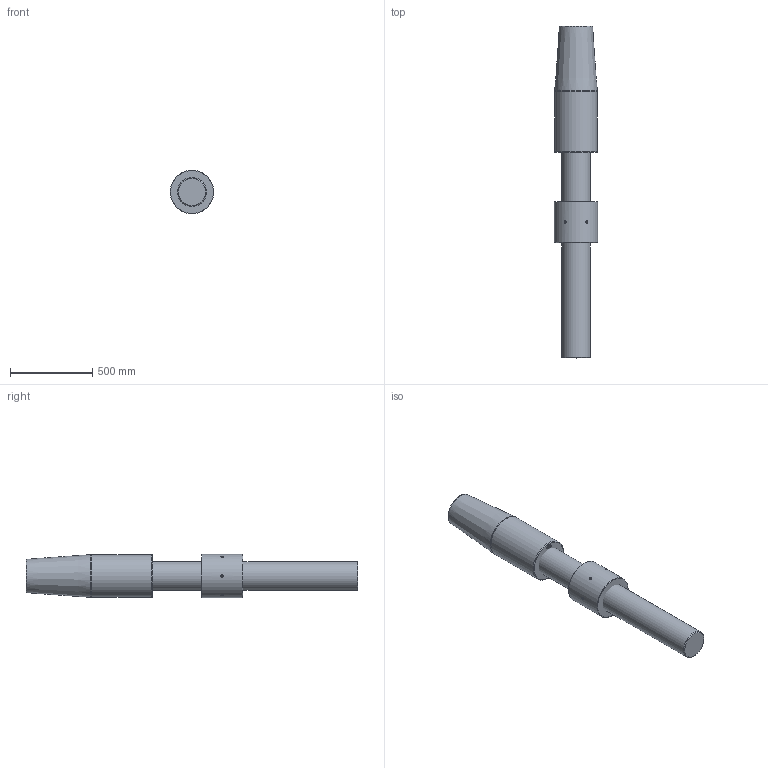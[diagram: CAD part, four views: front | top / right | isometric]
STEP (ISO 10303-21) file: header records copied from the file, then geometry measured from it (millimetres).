
FILE_DESCRIPTION(/* description */ (''),/* implementation_level */ '2;1');
FILE_NAME(/* name */ 'C:\Users\ranca\Desktop\CYM\ARRANGEMENT\CYM088 52 061 0.stp',/* time_stamp */ '2021-04-22T22:08:54+02:00',/* author */ ('ranca'),/* organization */ (''),/* preprocessor_version */ 'ST-DEVELOPER v16.13',/* originating_system */ 'Autodesk Inventor 2018',/* authorisation */ '');
FILE_SCHEMA (('AUTOMOTIVE_DESIGN { 1 0 10303 214 3 1 1 }'));
Length unit declared in the file: millimetre
Products named in the file (4): CYM088-52-061-0; CYM012-52-061-0_ROD; CYC088 52 065 0_CYL SOK_RH; CYM088-41-051-0
Assembly tree (3 placements, depth 2):
  CYM088-52-061-0
    CYM012-52-061-0_ROD
    CYC088 52 065 0_CYL SOK_RH
    CYM088-41-051-0
Bounding box: 265 x 2016 x 265 mm (x, y, z)
Volume: 86222997.5 mm3; surface area: 1863962.6 mm2
Topology: 3 solids, 3 shells, 546 faces, 1450 edges, 964 vertices
Faces by surface type: bspline 310, plane 214, cone 11, cylinder 9, torus 2
Full cylindrical faces by diameter (mm): 15 x6, 175 x1, 260 x1, 265 x1
Entity records: 18625 total; most frequent: CARTESIAN_POINT 7187, ORIENTED_EDGE 2842, EDGE_CURVE 1421, DIRECTION 1298, VERTEX_POINT 958, LINE 768, VECTOR 768, B_SPLINE_CURVE_WITH_KNOTS 630
